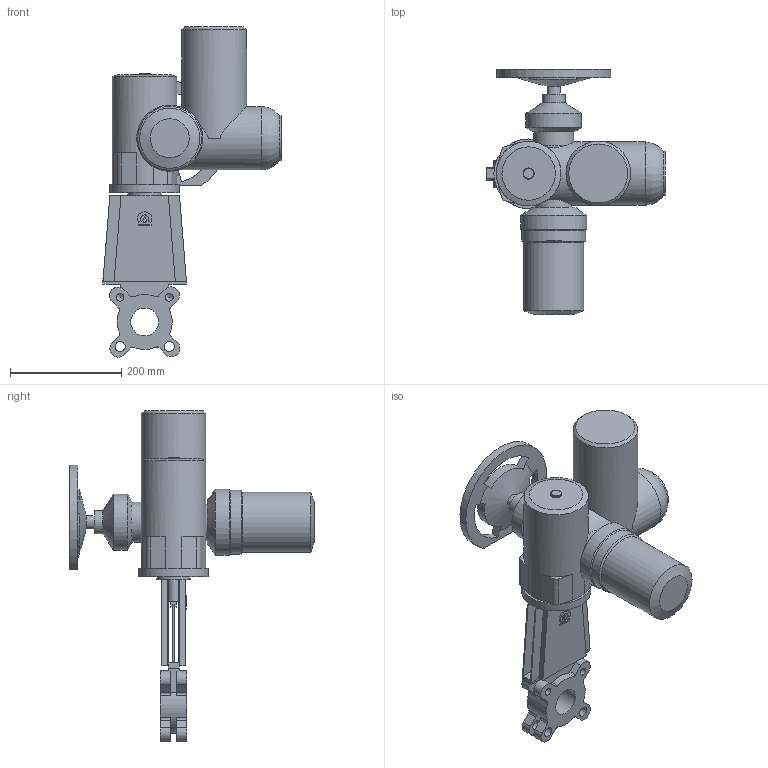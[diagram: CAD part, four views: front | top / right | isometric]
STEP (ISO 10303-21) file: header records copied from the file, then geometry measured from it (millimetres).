
FILE_DESCRIPTION(('STEP AP203'), '1');
FILE_NAME('K51GVA_DN50+MT903.A 07', '', ('UNSPECIFIED'), ('UNSPECIFIED'), 'ASCON STEP Converter 1.6', 'ASCON Math Kernel', '');
FILE_SCHEMA(('CONFIG_CONTROL_DESIGN'));
Length unit declared in the file: millimetre
Bounding box: 320 x 440 x 593.12 mm (x, y, z)
Volume: 9116648 mm3; surface area: 591484.9 mm2
Topology: 1 solids, 1 shells, 244 faces, 656 edges, 421 vertices
Faces by surface type: plane 147, cylinder 82, cone 14, torus 1
Full cylindrical faces by diameter (mm): 8.5 x4, 12 x4, 13.835 x4, 18 x4, 20 x2, 24 x1, 42 x1, 50 x1, 60 x1, 66 x1, 72 x1, 80 x1, 100 x1, 108 x1, 114 x1, 115 x1, 116 x2, 119 x1, 125 x1
Entity records: 10450 total; most frequent: CARTESIAN_POINT 2402, DIRECTION 1276, ORIENTED_EDGE 1206, EDGE_CURVE 603, AXIS2_PLACEMENT_3D 455, VERTEX_POINT 417, LINE 366, VECTOR 366
